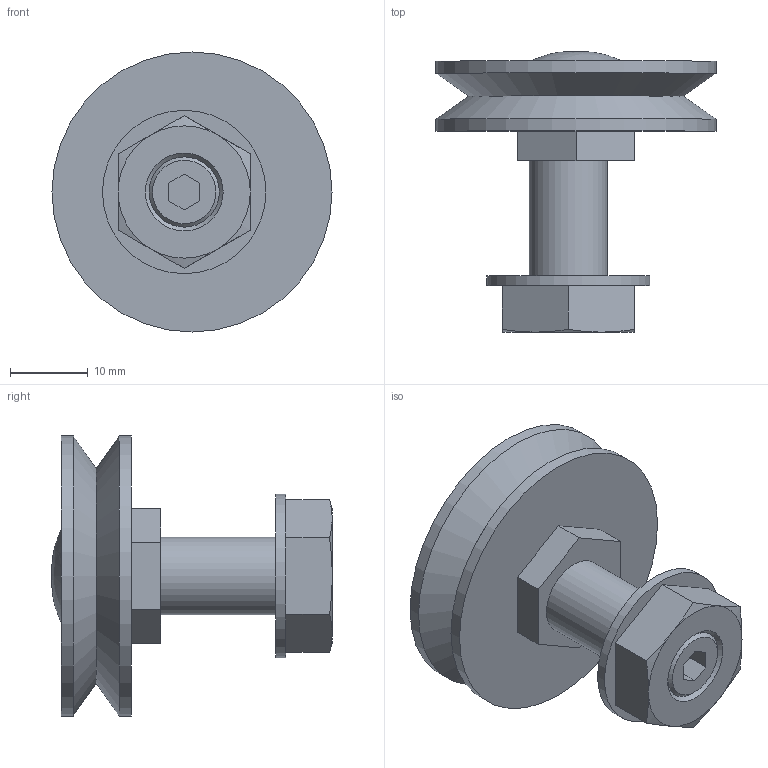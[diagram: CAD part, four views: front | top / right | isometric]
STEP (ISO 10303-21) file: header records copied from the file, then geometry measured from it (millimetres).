
FILE_DESCRIPTION( ( 'STEP AP203' ), '1' );
FILE_NAME( 'p:/temp/worker_143/temp/exporttempdir_5096_561_yiVBn/format_0/GLJ360E.stp', '2021-09-29T06:42:19', ( 'License CC BY-ND 4.0' ), ( 'CADENAS' ), ' ', 'PARTsolutions', ' ' );
FILE_SCHEMA( ( 'CONFIG_CONTROL_DESIGN' ) );
Length unit declared in the file: millimetre
Products named in the file (2): GLJ360E; _GLJ360E
Assembly tree (1 placements, depth 2):
  GLJ360E
    _GLJ360E
Bounding box: 36 x 36.07 x 36 mm (x, y, z)
Volume: 11726 mm3; surface area: 5099.4 mm2
Topology: 1 solids, 1 shells, 41 faces, 92 edges, 59 vertices
Faces by surface type: plane 26, cone 10, cylinder 4, bspline 1
Full cylindrical faces by diameter (mm): 10 x1, 21 x1, 36 x2
Entity records: 1170 total; most frequent: CARTESIAN_POINT 245, DIRECTION 170, ORIENTED_EDGE 158, EDGE_CURVE 79, AXIS2_PLACEMENT_3D 61, EDGE_LOOP 56, VERTEX_POINT 56, LINE 48
